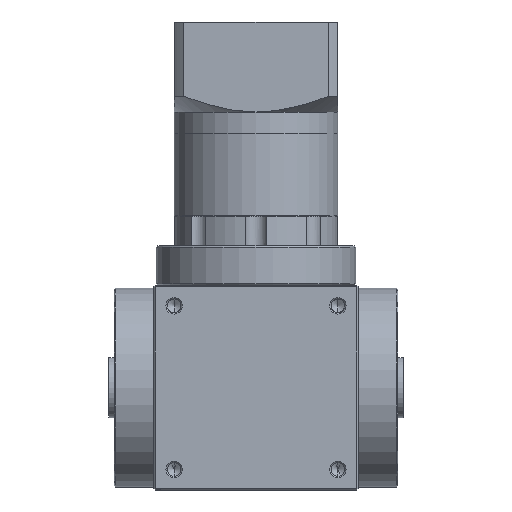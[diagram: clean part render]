
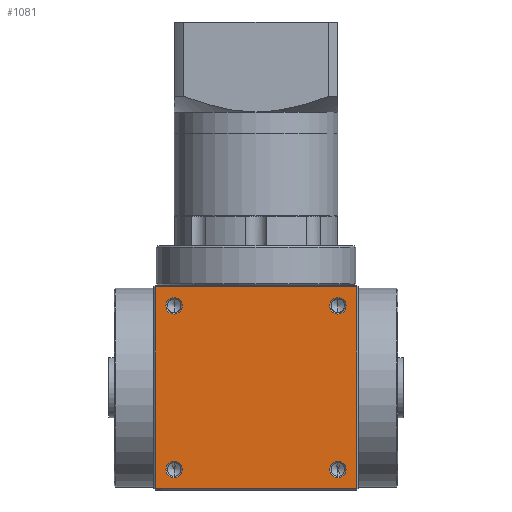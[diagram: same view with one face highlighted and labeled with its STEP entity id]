
A CAD part, front view. The second image highlights one B-rep face of the part: STEP entity #1081.
In plain terms, the highlighted planar face has unit normal (0, -1, 0).
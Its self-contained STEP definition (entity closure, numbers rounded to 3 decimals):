
#154 = VERTEX_POINT ( 'NONE', #34030 ) ;
#1081 = ADVANCED_FACE ( 'NONE', ( #54858, #32764, #22697, #43795, #34062 ), #4077, .F. ) ;
#1299 = AXIS2_PLACEMENT_3D ( 'NONE', #46911, #9212, #8398 ) ;
#1399 = CARTESIAN_POINT ( 'NONE',  ( 30., -37.5, 4.475 ) ) ;
#1811 = EDGE_LOOP ( 'NONE', ( #22997, #28217 ) ) ;
#2030 = ORIENTED_EDGE ( 'NONE', *, *, #6728, .F. ) ;
#2746 = EDGE_CURVE ( 'NONE', #43771, #34406, #8550, .T. ) ;
#3291 = ORIENTED_EDGE ( 'NONE', *, *, #34642, .F. ) ;
#3357 = DIRECTION ( 'NONE',  ( 0., 0., -1. ) ) ;
#3404 = DIRECTION ( 'NONE',  ( 0., 1., 0. ) ) ;
#3422 = DIRECTION ( 'NONE',  ( 0., -1., 0. ) ) ;
#3474 = CARTESIAN_POINT ( 'NONE',  ( -30., -37.5, 7.5 ) ) ;
#3848 = CARTESIAN_POINT ( 'NONE',  ( -37.5, -37.5, 75. ) ) ;
#4077 = PLANE ( 'NONE',  #12391 ) ;
#4212 = DIRECTION ( 'NONE',  ( 0., 0., 1. ) ) ;
#4724 = CARTESIAN_POINT ( 'NONE',  ( -30., -37.5, 67.5 ) ) ;
#4889 = EDGE_CURVE ( 'NONE', #34406, #53370, #44713, .T. ) ;
#5732 = EDGE_CURVE ( 'NONE', #53370, #154, #53749, .T. ) ;
#6358 = ORIENTED_EDGE ( 'NONE', *, *, #5732, .F. ) ;
#6728 = EDGE_CURVE ( 'NONE', #154, #43771, #24117, .T. ) ;
#7221 = CARTESIAN_POINT ( 'NONE',  ( -37., -37.5, 74.5 ) ) ;
#7454 = EDGE_CURVE ( 'NONE', #45599, #24503, #14677, .T. ) ;
#7697 = AXIS2_PLACEMENT_3D ( 'NONE', #47395, #47323, #47259 ) ;
#7851 = CARTESIAN_POINT ( 'NONE',  ( -30., -37.5, 64.475 ) ) ;
#8398 = DIRECTION ( 'NONE',  ( 0., 0., -1. ) ) ;
#8550 = LINE ( 'NONE', #21235, #21218 ) ;
#9066 = DIRECTION ( 'NONE',  ( 0., 0., -1. ) ) ;
#9212 = DIRECTION ( 'NONE',  ( 0., -1., 0. ) ) ;
#10509 = EDGE_CURVE ( 'NONE', #52112, #32787, #38317, .T. ) ;
#10886 = CIRCLE ( 'NONE', #17096, 3.025 ) ;
#10973 = VECTOR ( 'NONE', #20015, 1000. ) ;
#11072 = EDGE_CURVE ( 'NONE', #32787, #52112, #36395, .T. ) ;
#12025 = CARTESIAN_POINT ( 'NONE',  ( -30., -37.5, 4.475 ) ) ;
#12219 = ORIENTED_EDGE ( 'NONE', *, *, #7454, .F. ) ;
#12391 = AXIS2_PLACEMENT_3D ( 'NONE', #3848, #3404, #4212 ) ;
#12554 = VERTEX_POINT ( 'NONE', #51136 ) ;
#13094 = EDGE_LOOP ( 'NONE', ( #12219, #20802 ) ) ;
#13474 = EDGE_CURVE ( 'NONE', #47294, #12554, #10886, .T. ) ;
#14446 = EDGE_CURVE ( 'NONE', #15001, #47311, #33474, .T. ) ;
#14677 = CIRCLE ( 'NONE', #28017, 3.025 ) ;
#14791 = ORIENTED_EDGE ( 'NONE', *, *, #10509, .F. ) ;
#15001 = VERTEX_POINT ( 'NONE', #7851 ) ;
#16127 = CARTESIAN_POINT ( 'NONE',  ( 30., -37.5, 67.5 ) ) ;
#16400 = CARTESIAN_POINT ( 'NONE',  ( -30., -37.5, 70.525 ) ) ;
#16421 = CIRCLE ( 'NONE', #53045, 3.025 ) ;
#17096 = AXIS2_PLACEMENT_3D ( 'NONE', #28408, #28358, #28289 ) ;
#19265 = CARTESIAN_POINT ( 'NONE',  ( -37.5, -37.5, 74.5 ) ) ;
#20015 = DIRECTION ( 'NONE',  ( 1., 0., 0. ) ) ;
#20125 = DIRECTION ( 'NONE',  ( 0., 0., 1. ) ) ;
#20221 = VECTOR ( 'NONE', #54631, 1000. ) ;
#20452 = DIRECTION ( 'NONE',  ( 0., 0., -1. ) ) ;
#20802 = ORIENTED_EDGE ( 'NONE', *, *, #26279, .F. ) ;
#20809 = DIRECTION ( 'NONE',  ( 0., -1., 0. ) ) ;
#21218 = VECTOR ( 'NONE', #20125, 1000. ) ;
#21235 = CARTESIAN_POINT ( 'NONE',  ( -37., -37.5, 75. ) ) ;
#22697 = FACE_BOUND ( 'NONE', #49360, .T. ) ;
#22997 = ORIENTED_EDGE ( 'NONE', *, *, #13474, .F. ) ;
#24117 = LINE ( 'NONE', #25831, #45196 ) ;
#24503 = VERTEX_POINT ( 'NONE', #54530 ) ;
#25831 = CARTESIAN_POINT ( 'NONE',  ( -37.5, -37.5, 0.5 ) ) ;
#25949 = DIRECTION ( 'NONE',  ( -1., 0., 0. ) ) ;
#26279 = EDGE_CURVE ( 'NONE', #24503, #45599, #45298, .T. ) ;
#28017 = AXIS2_PLACEMENT_3D ( 'NONE', #3474, #3422, #3357 ) ;
#28217 = ORIENTED_EDGE ( 'NONE', *, *, #38202, .F. ) ;
#28289 = DIRECTION ( 'NONE',  ( 0., 0., -1. ) ) ;
#28358 = DIRECTION ( 'NONE',  ( 0., -1., 0. ) ) ;
#28408 = CARTESIAN_POINT ( 'NONE',  ( 30., -37.5, 67.5 ) ) ;
#30557 = ORIENTED_EDGE ( 'NONE', *, *, #2746, .F. ) ;
#32764 = FACE_BOUND ( 'NONE', #1811, .T. ) ;
#32787 = VERTEX_POINT ( 'NONE', #37564 ) ;
#32942 = DIRECTION ( 'NONE',  ( 0., 0., -1. ) ) ;
#32947 = DIRECTION ( 'NONE',  ( 0., -1., 0. ) ) ;
#33014 = CARTESIAN_POINT ( 'NONE',  ( 30., -37.5, 7.5 ) ) ;
#33474 = CIRCLE ( 'NONE', #1299, 3.025 ) ;
#33820 = CARTESIAN_POINT ( 'NONE',  ( 37., -37.5, 74.5 ) ) ;
#34030 = CARTESIAN_POINT ( 'NONE',  ( 37., -37.5, 0.5 ) ) ;
#34062 = FACE_OUTER_BOUND ( 'NONE', #47942, .T. ) ;
#34406 = VERTEX_POINT ( 'NONE', #7221 ) ;
#34591 = DIRECTION ( 'NONE',  ( 0., -1., 0. ) ) ;
#34642 = EDGE_CURVE ( 'NONE', #47311, #15001, #38678, .T. ) ;
#36395 = CIRCLE ( 'NONE', #54708, 3.025 ) ;
#37564 = CARTESIAN_POINT ( 'NONE',  ( 30., -37.5, 10.525 ) ) ;
#38202 = EDGE_CURVE ( 'NONE', #12554, #47294, #16421, .T. ) ;
#38317 = CIRCLE ( 'NONE', #7697, 3.025 ) ;
#38678 = CIRCLE ( 'NONE', #38763, 3.025 ) ;
#38763 = AXIS2_PLACEMENT_3D ( 'NONE', #4724, #34591, #9066 ) ;
#39295 = ORIENTED_EDGE ( 'NONE', *, *, #14446, .F. ) ;
#41149 = CARTESIAN_POINT ( 'NONE',  ( -37., -37.5, 0.5 ) ) ;
#41753 = CARTESIAN_POINT ( 'NONE',  ( 30., -37.5, 64.475 ) ) ;
#41963 = EDGE_LOOP ( 'NONE', ( #39295, #3291 ) ) ;
#43771 = VERTEX_POINT ( 'NONE', #41149 ) ;
#43795 = FACE_BOUND ( 'NONE', #13094, .T. ) ;
#43854 = ORIENTED_EDGE ( 'NONE', *, *, #11072, .F. ) ;
#44713 = LINE ( 'NONE', #19265, #10973 ) ;
#45196 = VECTOR ( 'NONE', #25949, 1000. ) ;
#45298 = CIRCLE ( 'NONE', #45778, 3.025 ) ;
#45599 = VERTEX_POINT ( 'NONE', #12025 ) ;
#45703 = DIRECTION ( 'NONE',  ( 0., -1., 0. ) ) ;
#45778 = AXIS2_PLACEMENT_3D ( 'NONE', #46048, #20809, #50190 ) ;
#46048 = CARTESIAN_POINT ( 'NONE',  ( -30., -37.5, 7.5 ) ) ;
#46911 = CARTESIAN_POINT ( 'NONE',  ( -30., -37.5, 67.5 ) ) ;
#47259 = DIRECTION ( 'NONE',  ( 0., 0., -1. ) ) ;
#47294 = VERTEX_POINT ( 'NONE', #41753 ) ;
#47311 = VERTEX_POINT ( 'NONE', #16400 ) ;
#47323 = DIRECTION ( 'NONE',  ( 0., -1., 0. ) ) ;
#47395 = CARTESIAN_POINT ( 'NONE',  ( 30., -37.5, 7.5 ) ) ;
#47942 = EDGE_LOOP ( 'NONE', ( #6358, #50606, #30557, #2030 ) ) ;
#49360 = EDGE_LOOP ( 'NONE', ( #14791, #43854 ) ) ;
#50190 = DIRECTION ( 'NONE',  ( 0., 0., -1. ) ) ;
#50606 = ORIENTED_EDGE ( 'NONE', *, *, #4889, .F. ) ;
#51136 = CARTESIAN_POINT ( 'NONE',  ( 30., -37.5, 70.525 ) ) ;
#52112 = VERTEX_POINT ( 'NONE', #1399 ) ;
#53045 = AXIS2_PLACEMENT_3D ( 'NONE', #16127, #45703, #20452 ) ;
#53370 = VERTEX_POINT ( 'NONE', #33820 ) ;
#53749 = LINE ( 'NONE', #54682, #20221 ) ;
#54530 = CARTESIAN_POINT ( 'NONE',  ( -30., -37.5, 10.525 ) ) ;
#54631 = DIRECTION ( 'NONE',  ( 0., 0., -1. ) ) ;
#54682 = CARTESIAN_POINT ( 'NONE',  ( 37., -37.5, 75. ) ) ;
#54708 = AXIS2_PLACEMENT_3D ( 'NONE', #33014, #32947, #32942 ) ;
#54858 = FACE_BOUND ( 'NONE', #41963, .T. ) ;
